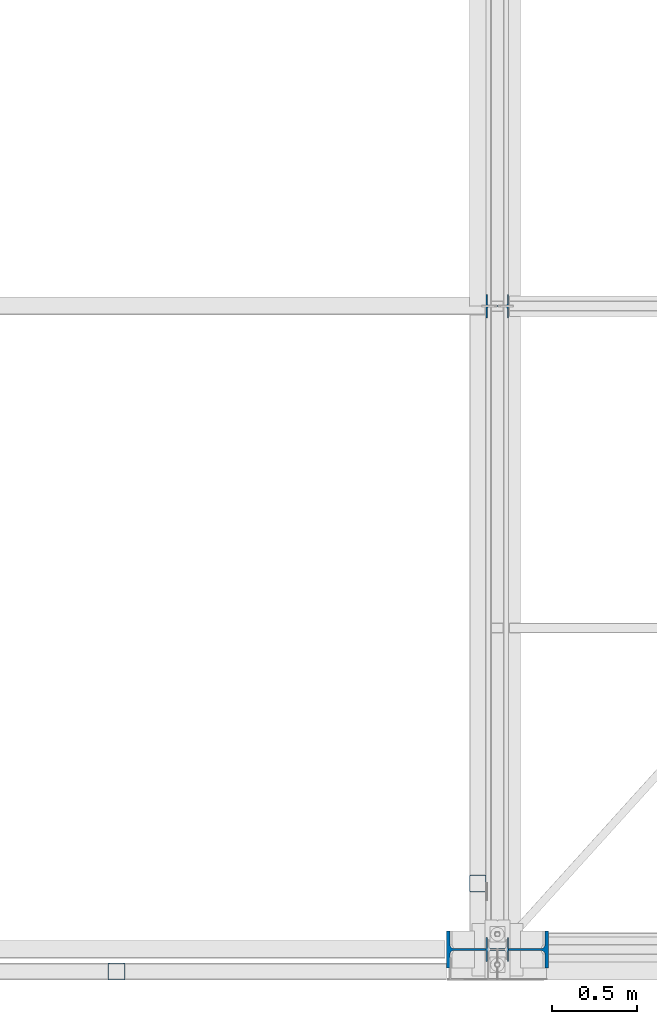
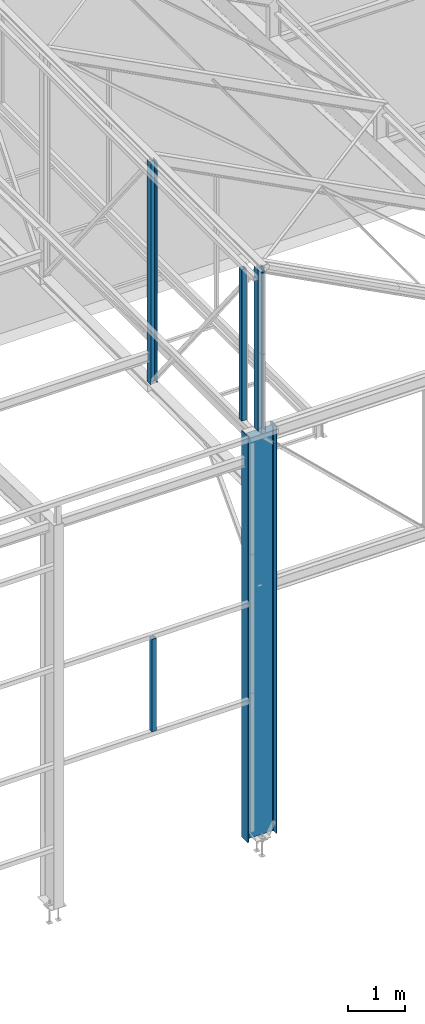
# One storey, part 2 of 123: 5 columns, 5 elements without a shape of their own.
"""IFC2X3 building model written with IfcOpenShell, lengths in millimetres."""

from ifc_helpers import new_model, si_unit, frame, origin_with_axes, origin_2d_with_axis, place, context, subcontext, project, spatial, hollow_rectangle, i_section, extrude, material, type_object, element, aggregate, save


model = new_model("IFC2X3")

# Units and contexts
model_context = context("Model", 3, precision=1e-05, world=origin_with_axes())
body_context = subcontext(model_context, "Body", "Model", "MODEL_VIEW")
ifc_project = project(units=[si_unit("LENGTHUNIT", "METRE", prefix="MILLI"), si_unit("AREAUNIT", "SQUARE_METRE"), si_unit("VOLUMEUNIT", "CUBIC_METRE"), si_unit("MASSUNIT", "GRAM", prefix="KILO"), si_unit("TIMEUNIT", "SECOND"), si_unit("PLANEANGLEUNIT", "RADIAN"), si_unit("SOLIDANGLEUNIT", "STERADIAN"), si_unit("THERMODYNAMICTEMPERATUREUNIT", "DEGREE_CELSIUS"), si_unit("LUMINOUSINTENSITYUNIT", "LUMEN")], contexts=[model_context])

# Site, building, storey
site_placement = place(None, origin_with_axes())
site = spatial("IfcSite", under=ifc_project, at=site_placement, Name="Undefined", CompositionType="ELEMENT")
building_placement = place(site_placement, origin_with_axes())
building = spatial("IfcBuilding", under=site, at=building_placement, Name="Undefined", CompositionType="ELEMENT")
storey_placement = place(building_placement, origin_with_axes())
storey = spatial("IfcBuildingStorey", under=building, at=storey_placement, Name="Undefined", CompositionType="ELEMENT", Elevation=0.0)

# Assembly, column
assembly_1_placement = place(storey_placement, origin_with_axes())
assembly_1 = element("IfcElementAssembly", 1, at=assembly_1_placement, inside=storey, Name="Steel Assembly", AssemblyPlace="NOTDEFINED", PredefinedType="RIGID_FRAME")
ifc_material_1 = material(Name="STEEL/S275-E28")
column_type_1 = type_object("IfcColumnType", Name="HEA140", PredefinedType="NOTDEFINED")
column_1_placement = place(assembly_1_placement, frame((12680.0, 3800.0, 7250.0), z_axis=(0.0, 0.0, 1.0), x_axis=(-1.0, 0.0, 0.0)))
column_1 = element("IfcColumn", 2, at=column_1_placement, type_object=column_type_1, material=ifc_material_1, Name="MONTANT", ObjectType="HEA140", context=body_context, shape_type="SweptSolid", body=[
    extrude(i_section(OverallWidth=140.0, OverallDepth=133.0, WebThickness=5.5, FlangeThickness=8.5, FilletRadius=12.0, at=origin_2d_with_axis()), frame((0.0, 0.0, 4787.0), z_axis=(0.0, 0.0, -1.0), x_axis=(0.0, 1.0, 0.0)), (0.0, 0.0, 1.0), 4787.0),
])
aggregate(assembly_1, [column_1])

assembly_2_placement = place(storey_placement, origin_with_axes())
assembly_2 = element("IfcElementAssembly", 3, at=assembly_2_placement, inside=storey, Name="Steel Assembly", AssemblyPlace="NOTDEFINED", PredefinedType="RIGID_FRAME")
column_2_placement = place(assembly_2_placement, frame((12680.0, 0.0, 8550.0), z_axis=(0.0, 0.0, 1.0), x_axis=(-1.0, 0.0, 0.0)))
column_2 = element("IfcColumn", 4, at=column_2_placement, type_object=column_type_1, material=ifc_material_1, Name="MONTANT", ObjectType="HEA140", context=body_context, shape_type="SweptSolid", body=[
    extrude(i_section(OverallWidth=140.0, OverallDepth=133.0, WebThickness=5.5, FlangeThickness=8.5, FilletRadius=12.0, at=origin_2d_with_axis()), frame((0.0, 0.0, 3487.0), z_axis=(0.0, 0.0, -1.0), x_axis=(0.0, 1.0, 0.0)), (0.0, 0.0, 1.0), 3487.0),
])
aggregate(assembly_2, [column_2])

assembly_3_placement = place(storey_placement, origin_with_axes())
assembly_3 = element("IfcElementAssembly", 5, at=assembly_3_placement, inside=storey, Name="Steel Assembly", AssemblyPlace="NOTDEFINED", PredefinedType="RIGID_FRAME")
ifc_material_2 = material(Name="STEEL/S235-E24")
column_type_2 = type_object("IfcColumnType", Name="TUBE-C-100*100*4", PredefinedType="NOTDEFINED")
column_3_placement = place(assembly_3_placement, frame((12563.5001162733, 389.9999987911, 8550.00000000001), z_axis=(0.0, 0.0, 1.0), x_axis=(0.0, -1.0, 0.0)))
column_3 = element("IfcColumn", 6, at=column_3_placement, type_object=column_type_2, material=ifc_material_2, Name="MONTANT", ObjectType="TUBE-C-100*100*4", context=body_context, shape_type="SweptSolid", body=[
    extrude(hollow_rectangle(XDim=100.0, YDim=100.0, WallThickness=4.0, InnerFilletRadius=4.0, OuterFilletRadius=8.0, at=origin_2d_with_axis()), frame((0.0, 0.0, 3270.0), z_axis=(0.0, 0.0, -1.0), x_axis=(0.0, 1.0, 0.0)), (0.0, 0.0, 1.0), 3270.0),
])
aggregate(assembly_3, [column_3])

assembly_4_placement = place(storey_placement, origin_with_axes())
assembly_4 = element("IfcElementAssembly", 7, at=assembly_4_placement, inside=storey, Name="Steel Assembly", AssemblyPlace="NOTDEFINED", PredefinedType="RIGID_FRAME")
column_4_placement = place(assembly_4_placement, frame((10429.9999996, -129.999922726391, 2899.99999999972), z_axis=(0.0, 0.0, 1.0), x_axis=(0.0, 1.0, 0.0)))
column_4 = element("IfcColumn", 8, at=column_4_placement, type_object=column_type_2, material=ifc_material_2, Name="MONTANT", ObjectType="TUBE-C-100*100*4", context=body_context, shape_type="SweptSolid", body=[
    extrude(hollow_rectangle(XDim=100.0, YDim=100.0, WallThickness=4.0, InnerFilletRadius=4.0, OuterFilletRadius=8.0, at=origin_2d_with_axis()), frame((0.0, 0.0, 2000.0), z_axis=(0.0, 0.0, -1.0), x_axis=(0.0, 1.0, 0.0)), (0.0, 0.0, 1.0), 2000.0),
])
aggregate(assembly_4, [column_4])

assembly_5_placement = place(storey_placement, origin_with_axes())
assembly_5 = element("IfcElementAssembly", 9, at=assembly_5_placement, inside=storey, Name="Steel Assembly", AssemblyPlace="NOTDEFINED", PredefinedType="RIGID_FRAME")
column_type_3 = type_object("IfcColumnType", Name="IPE600", PredefinedType="NOTDEFINED")
column_5_placement = place(assembly_5_placement, frame((12680.0, 0.0, -235.0), z_axis=(0.0, 0.0, 1.0), x_axis=(-1.0, 0.0, 0.0)))
column_5 = element("IfcColumn", 10, at=column_5_placement, type_object=column_type_3, material=ifc_material_1, Name="POTEAU", ObjectType="IPE600", context=body_context, shape_type="SweptSolid", body=[
    extrude(i_section(OverallWidth=220.0, OverallDepth=600.0, WebThickness=12.0, FlangeThickness=19.0, FilletRadius=24.0, at=origin_2d_with_axis()), frame((0.0, 0.0, 8775.0), z_axis=(0.0, 0.0, -1.0), x_axis=(0.0, 1.0, 0.0)), (0.0, 0.0, 1.0), 8775.0),
])
aggregate(assembly_5, [column_5])

save(model, "model.ifc")
